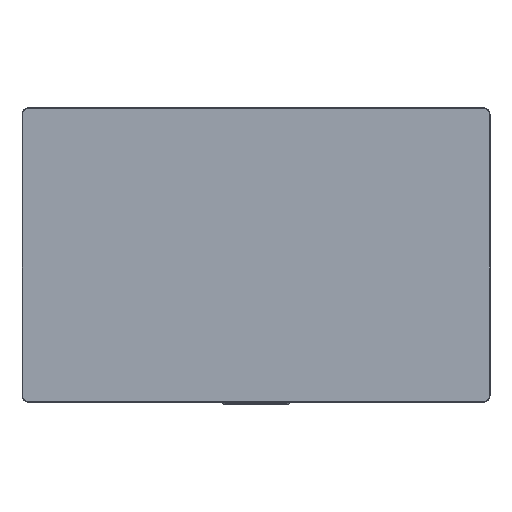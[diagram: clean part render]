
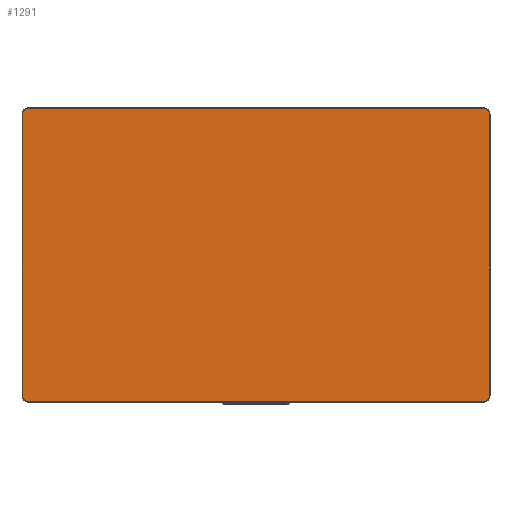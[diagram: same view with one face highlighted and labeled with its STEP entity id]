
A CAD part, top view. The second image highlights one B-rep face of the part: STEP entity #1291.
In plain terms, the highlighted planar face has unit normal (0, 0, 1) as drawn and (0, 1, 0) by its records, which use the part's own axes.
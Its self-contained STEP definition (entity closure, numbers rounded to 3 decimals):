
#16 = CIRCLE ( 'NONE', #1729, 4.5 ) ;
#25 = EDGE_CURVE ( 'NONE', #1162, #865, #2999, .T. ) ;
#127 = CARTESIAN_POINT ( 'NONE',  ( 105., 34., 170. ) ) ;
#157 = CARTESIAN_POINT ( 'NONE',  ( 105., 34., -170. ) ) ;
#158 = CIRCLE ( 'NONE', #754, 4.5 ) ;
#160 = EDGE_LOOP ( 'NONE', ( #180, #988, #306, #2817, #1408, #2013, #2128, #2273, #583, #1826, #1535, #2041 ) ) ;
#176 = DIRECTION ( 'NONE',  ( 0., -1., 0. ) ) ;
#180 = ORIENTED_EDGE ( 'NONE', *, *, #576, .F. ) ;
#248 = VECTOR ( 'NONE', #2425, 1000. ) ;
#303 = CARTESIAN_POINT ( 'NONE',  ( -105., 34., 174.5 ) ) ;
#306 = ORIENTED_EDGE ( 'NONE', *, *, #2890, .F. ) ;
#381 = CARTESIAN_POINT ( 'NONE',  ( -105., 34., -170. ) ) ;
#443 = AXIS2_PLACEMENT_3D ( 'NONE', #2657, #1029, #1260 ) ;
#478 = EDGE_CURVE ( 'NONE', #761, #699, #1092, .T. ) ;
#519 = CARTESIAN_POINT ( 'NONE',  ( -109.5, 34., 170. ) ) ;
#555 = LINE ( 'NONE', #1490, #2065 ) ;
#572 = CARTESIAN_POINT ( 'NONE',  ( -105., 34., -170. ) ) ;
#576 = EDGE_CURVE ( 'NONE', #2329, #2711, #1529, .T. ) ;
#583 = ORIENTED_EDGE ( 'NONE', *, *, #478, .F. ) ;
#585 = DIRECTION ( 'NONE',  ( -1., 0., 0. ) ) ;
#587 = DIRECTION ( 'NONE',  ( 0., -1., 0. ) ) ;
#606 = AXIS2_PLACEMENT_3D ( 'NONE', #2921, #587, #1503 ) ;
#667 = CARTESIAN_POINT ( 'NONE',  ( -105., 34., -174.5 ) ) ;
#699 = VERTEX_POINT ( 'NONE', #1262 ) ;
#709 = CARTESIAN_POINT ( 'NONE',  ( 109.5, 34., 87.5 ) ) ;
#722 = CARTESIAN_POINT ( 'NONE',  ( 105., 34., 170. ) ) ;
#753 = VERTEX_POINT ( 'NONE', #303 ) ;
#754 = AXIS2_PLACEMENT_3D ( 'NONE', #722, #3025, #2122 ) ;
#761 = VERTEX_POINT ( 'NONE', #1275 ) ;
#762 = LINE ( 'NONE', #1943, #248 ) ;
#865 = VERTEX_POINT ( 'NONE', #2713 ) ;
#896 = AXIS2_PLACEMENT_3D ( 'NONE', #157, #1833, #1350 ) ;
#938 = CARTESIAN_POINT ( 'NONE',  ( 55., 34., -174.5 ) ) ;
#988 = ORIENTED_EDGE ( 'NONE', *, *, #1422, .F. ) ;
#1029 = DIRECTION ( 'NONE',  ( 0., -1., 0. ) ) ;
#1033 = DIRECTION ( 'NONE',  ( 0., -1., 0. ) ) ;
#1072 = DIRECTION ( 'NONE',  ( 0., -1., 0. ) ) ;
#1092 = CIRCLE ( 'NONE', #1387, 4.5 ) ;
#1097 = FACE_OUTER_BOUND ( 'NONE', #160, .T. ) ;
#1101 = EDGE_CURVE ( 'NONE', #1417, #2216, #2607, .T. ) ;
#1107 = EDGE_CURVE ( 'NONE', #699, #753, #555, .T. ) ;
#1147 = CIRCLE ( 'NONE', #2708, 4.5 ) ;
#1162 = VERTEX_POINT ( 'NONE', #2458 ) ;
#1260 = DIRECTION ( 'NONE',  ( -0.707, 0., 0.707 ) ) ;
#1262 = CARTESIAN_POINT ( 'NONE',  ( 105., 34., 174.5 ) ) ;
#1275 = CARTESIAN_POINT ( 'NONE',  ( 108.182, 34., 173.182 ) ) ;
#1291 = ADVANCED_FACE ( 'NONE', ( #1097 ), #2524, .T. ) ;
#1319 = DIRECTION ( 'NONE',  ( 0.707, 0., 0.707 ) ) ;
#1350 = DIRECTION ( 'NONE',  ( 0.707, 0., -0.707 ) ) ;
#1351 = EDGE_CURVE ( 'NONE', #3038, #2789, #2814, .T. ) ;
#1356 = CARTESIAN_POINT ( 'NONE',  ( 0., 34., 0. ) ) ;
#1387 = AXIS2_PLACEMENT_3D ( 'NONE', #127, #1072, #1319 ) ;
#1408 = ORIENTED_EDGE ( 'NONE', *, *, #1668, .F. ) ;
#1417 = VERTEX_POINT ( 'NONE', #2639 ) ;
#1422 = EDGE_CURVE ( 'NONE', #1830, #2329, #2583, .T. ) ;
#1490 = CARTESIAN_POINT ( 'NONE',  ( -55., 34., 174.5 ) ) ;
#1503 = DIRECTION ( 'NONE',  ( 0.707, 0., -0.707 ) ) ;
#1529 = CIRCLE ( 'NONE', #896, 4.5 ) ;
#1535 = ORIENTED_EDGE ( 'NONE', *, *, #1351, .F. ) ;
#1558 = DIRECTION ( 'NONE',  ( -0.707, 0., -0.707 ) ) ;
#1668 = EDGE_CURVE ( 'NONE', #2216, #1162, #762, .T. ) ;
#1687 = DIRECTION ( 'NONE',  ( 1., 0., 0. ) ) ;
#1729 = AXIS2_PLACEMENT_3D ( 'NONE', #381, #2920, #1558 ) ;
#1802 = CARTESIAN_POINT ( 'NONE',  ( 108.182, 34., -173.182 ) ) ;
#1826 = ORIENTED_EDGE ( 'NONE', *, *, #3004, .F. ) ;
#1830 = VERTEX_POINT ( 'NONE', #667 ) ;
#1833 = DIRECTION ( 'NONE',  ( 0., -1., 0. ) ) ;
#1839 = DIRECTION ( 'NONE',  ( 1., 0., 0. ) ) ;
#1867 = AXIS2_PLACEMENT_3D ( 'NONE', #1356, #2982, #1839 ) ;
#1913 = EDGE_CURVE ( 'NONE', #2711, #3038, #2217, .T. ) ;
#1943 = CARTESIAN_POINT ( 'NONE',  ( -109.5, 34., -87.5 ) ) ;
#1970 = DIRECTION ( 'NONE',  ( -0.707, 0., -0.707 ) ) ;
#2013 = ORIENTED_EDGE ( 'NONE', *, *, #1101, .F. ) ;
#2041 = ORIENTED_EDGE ( 'NONE', *, *, #1913, .F. ) ;
#2065 = VECTOR ( 'NONE', #585, 1000. ) ;
#2122 = DIRECTION ( 'NONE',  ( 0.707, 0., 0.707 ) ) ;
#2128 = ORIENTED_EDGE ( 'NONE', *, *, #2173, .F. ) ;
#2173 = EDGE_CURVE ( 'NONE', #753, #1417, #1147, .T. ) ;
#2216 = VERTEX_POINT ( 'NONE', #519 ) ;
#2217 = CIRCLE ( 'NONE', #606, 4.5 ) ;
#2260 = DIRECTION ( 'NONE',  ( -0.707, 0., 0.707 ) ) ;
#2273 = ORIENTED_EDGE ( 'NONE', *, *, #1107, .F. ) ;
#2278 = CARTESIAN_POINT ( 'NONE',  ( -105., 34., 170. ) ) ;
#2312 = VECTOR ( 'NONE', #2391, 1000. ) ;
#2329 = VERTEX_POINT ( 'NONE', #2859 ) ;
#2338 = CARTESIAN_POINT ( 'NONE',  ( 109.5, 34., -170. ) ) ;
#2357 = AXIS2_PLACEMENT_3D ( 'NONE', #572, #1033, #1970 ) ;
#2391 = DIRECTION ( 'NONE',  ( 0., 0., 1. ) ) ;
#2425 = DIRECTION ( 'NONE',  ( 0., 0., -1. ) ) ;
#2458 = CARTESIAN_POINT ( 'NONE',  ( -109.5, 34., -170. ) ) ;
#2524 = PLANE ( 'NONE',  #1867 ) ;
#2583 = LINE ( 'NONE', #938, #2959 ) ;
#2607 = CIRCLE ( 'NONE', #443, 4.5 ) ;
#2639 = CARTESIAN_POINT ( 'NONE',  ( -108.182, 34., 173.182 ) ) ;
#2657 = CARTESIAN_POINT ( 'NONE',  ( -105., 34., 170. ) ) ;
#2708 = AXIS2_PLACEMENT_3D ( 'NONE', #2278, #176, #2260 ) ;
#2711 = VERTEX_POINT ( 'NONE', #1802 ) ;
#2713 = CARTESIAN_POINT ( 'NONE',  ( -108.182, 34., -173.182 ) ) ;
#2758 = CARTESIAN_POINT ( 'NONE',  ( 109.5, 34., 170. ) ) ;
#2789 = VERTEX_POINT ( 'NONE', #2758 ) ;
#2814 = LINE ( 'NONE', #709, #2312 ) ;
#2817 = ORIENTED_EDGE ( 'NONE', *, *, #25, .F. ) ;
#2859 = CARTESIAN_POINT ( 'NONE',  ( 105., 34., -174.5 ) ) ;
#2890 = EDGE_CURVE ( 'NONE', #865, #1830, #16, .T. ) ;
#2920 = DIRECTION ( 'NONE',  ( 0., -1., 0. ) ) ;
#2921 = CARTESIAN_POINT ( 'NONE',  ( 105., 34., -170. ) ) ;
#2959 = VECTOR ( 'NONE', #1687, 1000. ) ;
#2982 = DIRECTION ( 'NONE',  ( 0., 1., 0. ) ) ;
#2999 = CIRCLE ( 'NONE', #2357, 4.5 ) ;
#3004 = EDGE_CURVE ( 'NONE', #2789, #761, #158, .T. ) ;
#3025 = DIRECTION ( 'NONE',  ( 0., -1., 0. ) ) ;
#3038 = VERTEX_POINT ( 'NONE', #2338 ) ;
